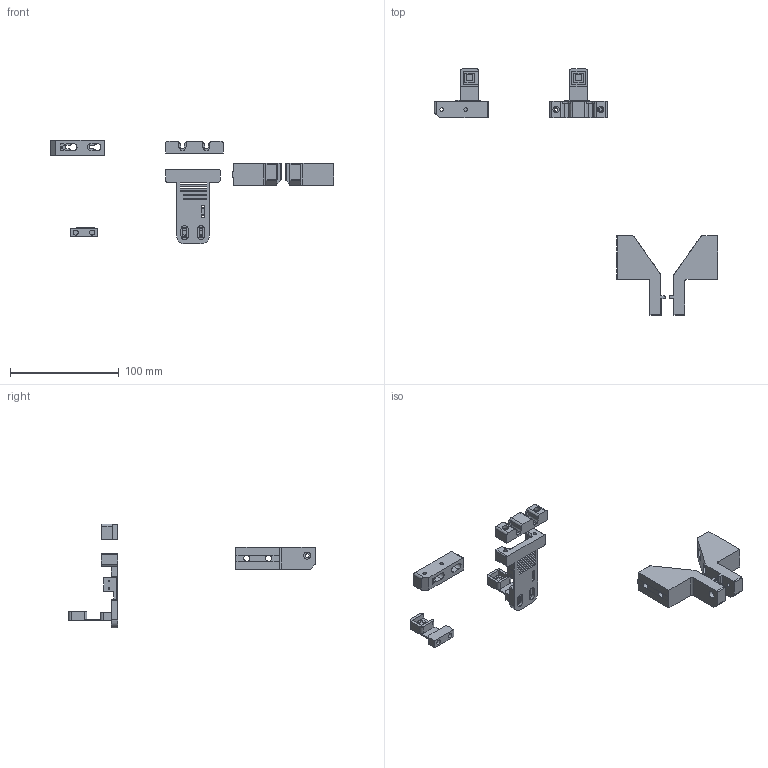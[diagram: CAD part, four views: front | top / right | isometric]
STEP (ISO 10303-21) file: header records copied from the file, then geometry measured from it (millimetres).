
FILE_DESCRIPTION(('HOOPS Exchange Step'),'2;1');
FILE_NAME('/Users/rileymahr/Library/Containers/com.shapr3d.shapr/Data/tmp/export/temp_export','2026-11-11T13:10:28-06:00',('rileymahr'),('Shapr3D Limited'),'HOOPS Exchange 2025.7','Shapr3D','Authorized');
FILE_SCHEMA( ('AP242_MANAGED_MODEL_BASED_3D_ENGINEERING_MIM_LF {1 0 10303 442 1 1 4}') );
Length unit declared in the file: millimetre
Products named in the file (5): 1515 Mount; Tool Switch (1); Tool Dock; dock; root
Assembly tree (4 placements, depth 4):
  root
    dock
      1515 Mount
      Tool Dock
        Tool Switch (1)
Bounding box: 260.64 x 226.56 x 95.5 mm (x, y, z)
Volume: 87604.5 mm3; surface area: 40823.3 mm2
Topology: 8 solids, 8 shells, 417 faces, 1185 edges, 792 vertices
Faces by surface type: plane 280, cylinder 133, torus 4
Full cylindrical faces by diameter (mm): 1.8 x3, 3.2 x6, 3.4 x3, 4.7 x4, 5.5 x4, 5.8 x2, 6.5 x2
Entity records: 13844 total; most frequent: CARTESIAN_POINT 2404, DIRECTION 2370, ORIENTED_EDGE 2370, EDGE_CURVE 1185, VECTOR 854, LINE 854, VERTEX_POINT 792, AXIS2_PLACEMENT_3D 758
